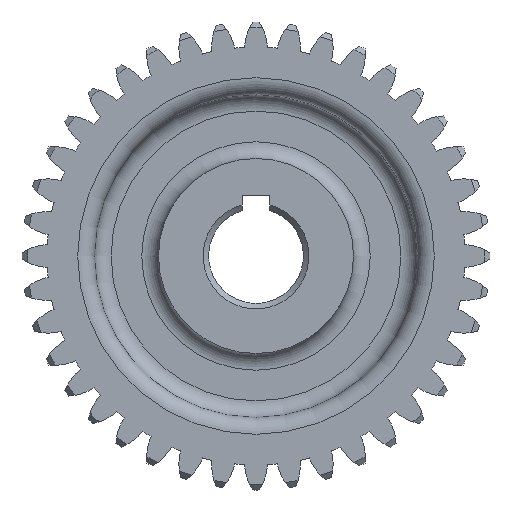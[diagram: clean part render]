
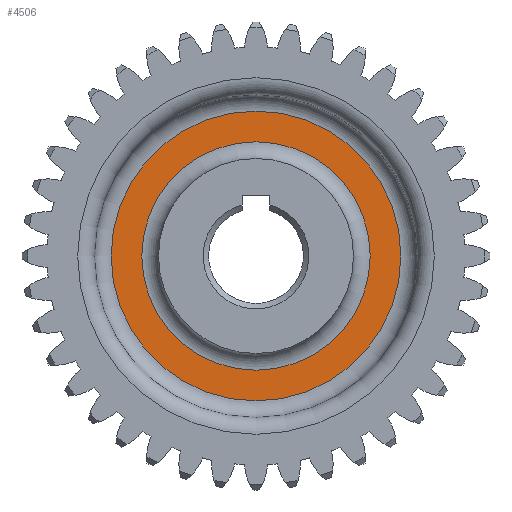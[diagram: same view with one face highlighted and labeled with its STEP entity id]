
A CAD part, front view. The second image highlights one B-rep face of the part: STEP entity #4506.
In plain terms, the highlighted planar face has unit normal (0, -1, 0).
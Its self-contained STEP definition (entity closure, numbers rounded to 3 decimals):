
#180=FACE_BOUND($,#984,.T.);
#701=PLANE($,#4941);
#718=FACE_OUTER_BOUND($,#983,.T.);
#983=EDGE_LOOP($,(#3104));
#984=EDGE_LOOP($,(#3105));
#1410=CIRCLE($,#4940,20.5);
#1411=CIRCLE($,#4942,26.);
#1836=VERTEX_POINT($,#7335);
#1837=VERTEX_POINT($,#7338);
#2343=EDGE_CURVE($,#1836,#1836,#1410,.T.);
#2344=EDGE_CURVE($,#1837,#1837,#1411,.T.);
#3104=ORIENTED_EDGE($,*,*,#2344,.F.);
#3105=ORIENTED_EDGE($,*,*,#2343,.F.);
#4506=ADVANCED_FACE($,(#718,#180),#701,.T.);
#4940=AXIS2_PLACEMENT_3D($,#7336,#5805,#5806);
#4941=AXIS2_PLACEMENT_3D($,#7337,#5807,#5808);
#4942=AXIS2_PLACEMENT_3D($,#7339,#5809,#5810);
#5805=DIRECTION('center_axis',(0.,-1.,0.));
#5806=DIRECTION('ref_axis',(0.,0.,
-1.));
#5807=DIRECTION('center_axis',(0.,-1.,0.));
#5808=DIRECTION('ref_axis',(0.,0.,-1.));
#5809=DIRECTION('center_axis',(0.,1.,0.));
#5810=DIRECTION('ref_axis',(0.,0.,
-1.));
#7335=CARTESIAN_POINT('',(0.,-3.5,20.5));
#7336=CARTESIAN_POINT('Origin',(0.,-3.5,0.));
#7337=CARTESIAN_POINT('Origin',(0.,-3.5,29.));
#7338=CARTESIAN_POINT('',(0.,-3.5,26.));
#7339=CARTESIAN_POINT('Origin',(0.,-3.5,0.));
